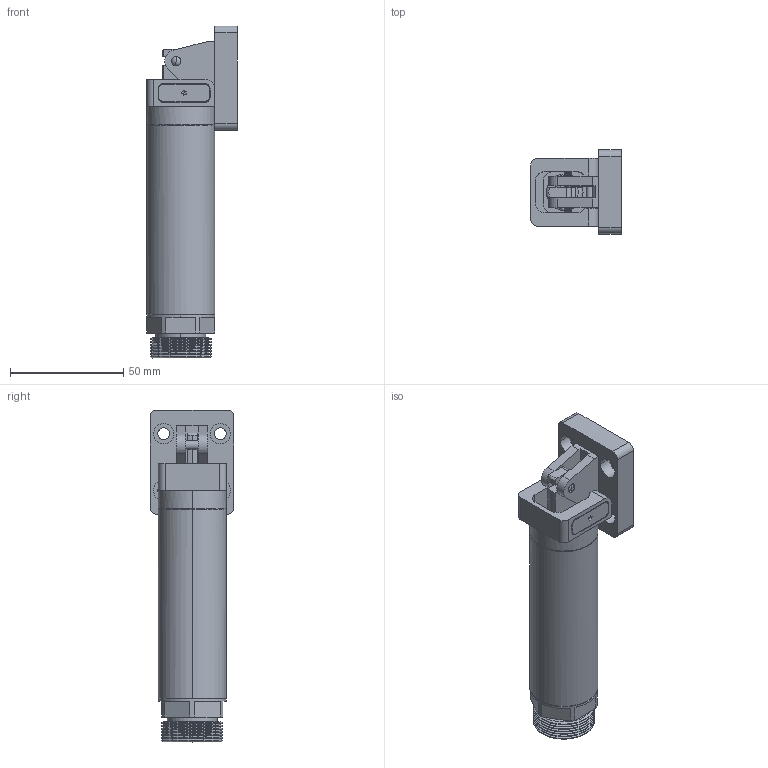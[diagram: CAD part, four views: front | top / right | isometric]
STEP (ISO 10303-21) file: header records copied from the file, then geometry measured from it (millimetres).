
FILE_DESCRIPTION (( 'STEP AP214' ), '1' );
FILE_NAME ('GFN30-90.STEP', '2020-11-25T01:18:19', ( 'admin' ), ( '' ), 'SwSTEP 2.0', 'SolidWorks 2016', '' );
FILE_SCHEMA (( 'AUTOMOTIVE_DESIGN' ));
Length unit declared in the file: millimetre
Products named in the file (4): GFN30-90.sldasm-Part-2; 活塞杆; GFN30-90.sldasm-Part-1; GFN30-90
Assembly tree (3 placements, depth 2):
  GFN30-90
    GFN30-90.sldasm-Part-1
    活塞杆
    GFN30-90.sldasm-Part-2
Bounding box: 40 x 37 x 146.5 mm (x, y, z)
Volume: 64485.7 mm3; surface area: 35742.8 mm2
Topology: 3 solids, 14 shells, 554 faces, 1324 edges, 803 vertices
Faces by surface type: cylinder 207, plane 155, cone 140, bspline 33, torus 15, sphere 4
Entity records: 24734 total; most frequent: CARTESIAN_POINT 11823, DIRECTION 2692, ORIENTED_EDGE 2636, EDGE_CURVE 1318, AXIS2_PLACEMENT_3D 1035, VERTEX_POINT 803, VECTOR 622, LINE 622
